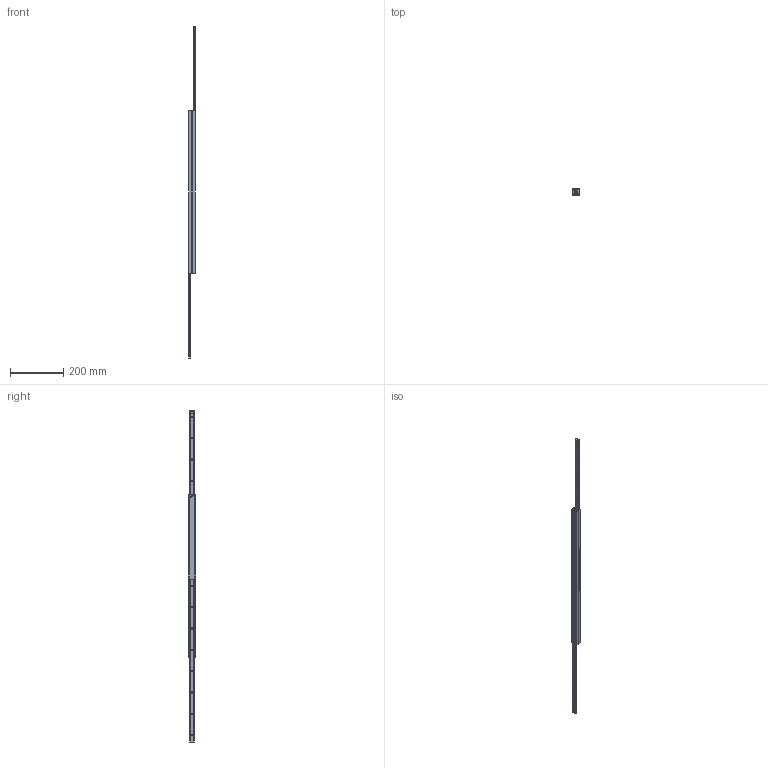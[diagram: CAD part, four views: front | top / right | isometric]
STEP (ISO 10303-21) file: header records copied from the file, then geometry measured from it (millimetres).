
FILE_DESCRIPTION( ( 'STEP AP214' ), '1' );
FILE_NAME( 'p:/temp/worker_81/temp/exporttempdir_3564_1730_Bx4RC/format_0/DEF28-610633.stp', '2020-03-20T19:12:16', ( 'License CC BY-ND 4.0' ), ( 'CADENAS' ), ' ', 'PARTsolutions', ' ' );
FILE_SCHEMA( ( 'AUTOMOTIVE_DESIGN { 1 0 10303 214 1 1 1 1 }' ) );
Length unit declared in the file: millimetre
Products named in the file (4): DEF28-610633; _282161063312-gf; _28216106331-ei; _282161063311-gf
Assembly tree (4 placements, depth 2):
  DEF28-610633
    _282161063312-gf
    _28216106331-ei  x2
    _282161063311-gf
Bounding box: 26 x 28 x 1243 mm (x, y, z)
Volume: 295882.2 mm3; surface area: 176779.5 mm2
Topology: 4 solids, 4 shells, 198 faces, 500 edges, 322 vertices
Faces by surface type: plane 102, cylinder 60, cone 36
Full cylindrical faces by diameter (mm): 4.134 x16, 5 x2
Entity records: 5584 total; most frequent: DIRECTION 768, CARTESIAN_POINT 722, ORIENTED_EDGE 652, EDGE_CURVE 326, AXIS2_PLACEMENT_3D 286, EDGE_LOOP 242, VERTEX_POINT 240, LINE 196
